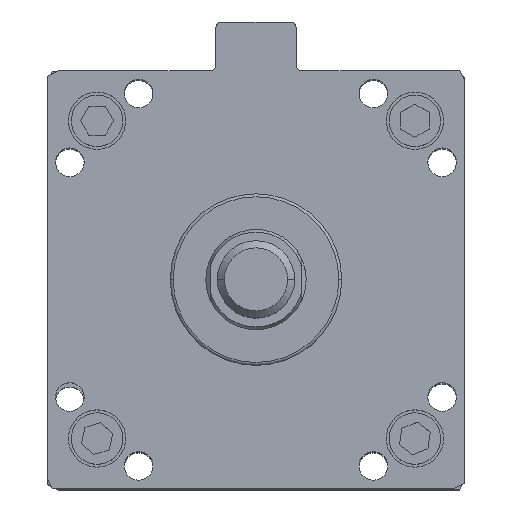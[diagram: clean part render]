
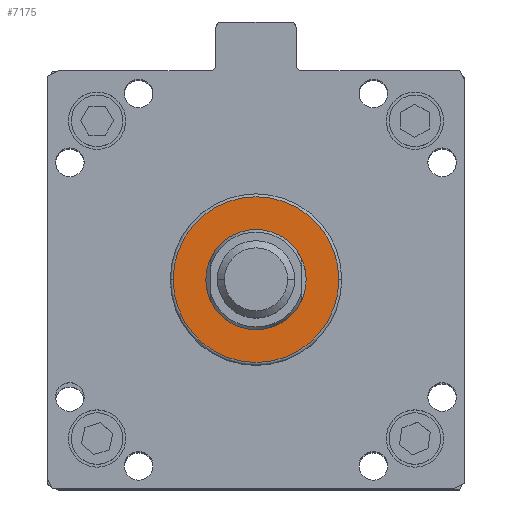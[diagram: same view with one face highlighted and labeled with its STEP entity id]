
A CAD part, top view. The second image highlights one B-rep face of the part: STEP entity #7175.
In plain terms, the highlighted planar face has unit normal (0, 0, 1).
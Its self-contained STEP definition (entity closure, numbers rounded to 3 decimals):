
#56 = DIRECTION ( 'NONE',  ( 0., 0., 1. ) ) ;
#423 = CARTESIAN_POINT ( 'NONE',  ( -28.95, 0., 30. ) ) ;
#772 = CARTESIAN_POINT ( 'NONE',  ( 0., 0., 30. ) ) ;
#930 = AXIS2_PLACEMENT_3D ( 'NONE', #1258, #6068, #1954 ) ;
#1190 = AXIS2_PLACEMENT_3D ( 'NONE', #772, #5582, #1465 ) ;
#1258 = CARTESIAN_POINT ( 'NONE',  ( 0., 0., 30. ) ) ;
#1407 = ORIENTED_EDGE ( 'NONE', *, *, #8279, .F. ) ;
#1465 = DIRECTION ( 'NONE',  ( 1., 0., 0. ) ) ;
#1807 = CARTESIAN_POINT ( 'NONE',  ( 0., 0., 30. ) ) ;
#1954 = DIRECTION ( 'NONE',  ( 1., 0., 0. ) ) ;
#2130 = EDGE_CURVE ( 'NONE', #8397, #8314, #8891, .T. ) ;
#2178 = CARTESIAN_POINT ( 'NONE',  ( 17.5, 0., 30. ) ) ;
#2336 = CARTESIAN_POINT ( 'NONE',  ( -17.5, 0., 30. ) ) ;
#2486 = DIRECTION ( 'NONE',  ( 1., 0., 0. ) ) ;
#2554 = FACE_OUTER_BOUND ( 'NONE', #7580, .T. ) ;
#3205 = CIRCLE ( 'NONE', #7183, 17.5 ) ;
#3391 = CARTESIAN_POINT ( 'NONE',  ( 0., 0., 30. ) ) ;
#3475 = PLANE ( 'NONE',  #6385 ) ;
#3714 = ORIENTED_EDGE ( 'NONE', *, *, #7388, .T. ) ;
#3927 = ORIENTED_EDGE ( 'NONE', *, *, #4659, .F. ) ;
#3932 = AXIS2_PLACEMENT_3D ( 'NONE', #1807, #6608, #2486 ) ;
#4104 = DIRECTION ( 'NONE',  ( 1., 0., 0. ) ) ;
#4117 = VERTEX_POINT ( 'NONE', #2178 ) ;
#4444 = CIRCLE ( 'NONE', #930, 17.5 ) ;
#4506 = CIRCLE ( 'NONE', #3932, 28.95 ) ;
#4659 = EDGE_CURVE ( 'NONE', #4117, #8145, #3205, .T. ) ;
#4662 = ORIENTED_EDGE ( 'NONE', *, *, #2130, .T. ) ;
#4721 = CARTESIAN_POINT ( 'NONE',  ( 28.95, 0., 30. ) ) ;
#4866 = DIRECTION ( 'NONE',  ( 1., 0., 0. ) ) ;
#5582 = DIRECTION ( 'NONE',  ( 0., 0., 1. ) ) ;
#6068 = DIRECTION ( 'NONE',  ( 0., 0., 1. ) ) ;
#6385 = AXIS2_PLACEMENT_3D ( 'NONE', #8319, #56, #4866 ) ;
#6543 = EDGE_LOOP ( 'NONE', ( #1407, #3927 ) ) ;
#6608 = DIRECTION ( 'NONE',  ( 0., 0., 1. ) ) ;
#7175 = ADVANCED_FACE ( 'NONE', ( #2554, #8071 ), #3475, .T. ) ;
#7183 = AXIS2_PLACEMENT_3D ( 'NONE', #3391, #8233, #4104 ) ;
#7388 = EDGE_CURVE ( 'NONE', #8314, #8397, #4506, .T. ) ;
#7580 = EDGE_LOOP ( 'NONE', ( #3714, #4662 ) ) ;
#8071 = FACE_BOUND ( 'NONE', #6543, .T. ) ;
#8145 = VERTEX_POINT ( 'NONE', #2336 ) ;
#8233 = DIRECTION ( 'NONE',  ( 0., 0., 1. ) ) ;
#8279 = EDGE_CURVE ( 'NONE', #8145, #4117, #4444, .T. ) ;
#8314 = VERTEX_POINT ( 'NONE', #4721 ) ;
#8319 = CARTESIAN_POINT ( 'NONE',  ( 0., 0., 30. ) ) ;
#8397 = VERTEX_POINT ( 'NONE', #423 ) ;
#8891 = CIRCLE ( 'NONE', #1190, 28.95 ) ;
